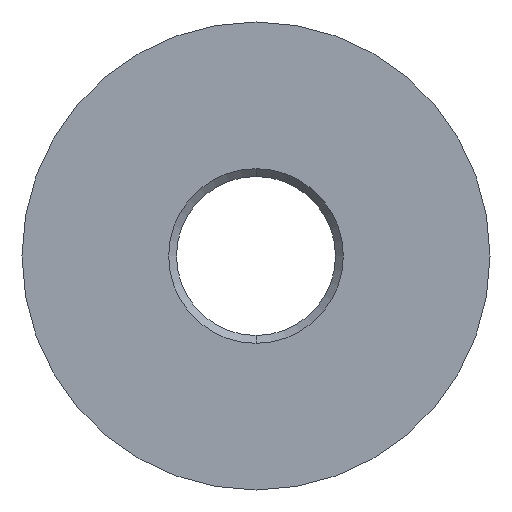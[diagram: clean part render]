
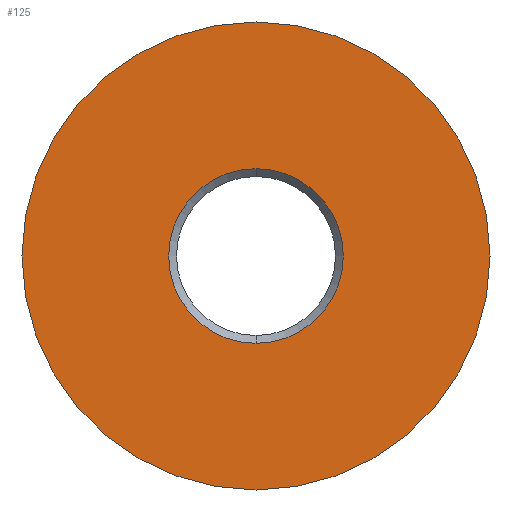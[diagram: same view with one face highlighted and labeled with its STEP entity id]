
A CAD part, front view. The second image highlights one B-rep face of the part: STEP entity #125.
In plain terms, the highlighted planar face has unit normal (0, -1, 0).
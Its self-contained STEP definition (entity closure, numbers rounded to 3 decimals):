
#7 = ORIENTED_EDGE ( 'NONE', *, *, #556, .T. ) ;
#9 = DIRECTION ( 'NONE',  ( 0., 0., -1. ) ) ;
#11 = CARTESIAN_POINT ( 'NONE',  ( 0., 0., 15.01 ) ) ;
#27 = PLANE ( 'NONE',  #571 ) ;
#32 = FACE_BOUND ( 'NONE', #524, .T. ) ;
#36 = DIRECTION ( 'NONE',  ( 0., -1., 0. ) ) ;
#38 = VERTEX_POINT ( 'NONE', #45 ) ;
#45 = CARTESIAN_POINT ( 'NONE',  ( 0., 0., -15.01 ) ) ;
#51 = EDGE_CURVE ( 'NONE', #521, #38, #547, .T. ) ;
#85 = DIRECTION ( 'NONE',  ( 0., 0., -1. ) ) ;
#125 = ADVANCED_FACE ( 'NONE', ( #32, #484 ), #27, .T. ) ;
#176 = ORIENTED_EDGE ( 'NONE', *, *, #51, .T. ) ;
#180 = CARTESIAN_POINT ( 'NONE',  ( 0., 0., 0. ) ) ;
#181 = EDGE_CURVE ( 'NONE', #548, #486, #276, .T. ) ;
#186 = DIRECTION ( 'NONE',  ( 0., 0., -1. ) ) ;
#209 = AXIS2_PLACEMENT_3D ( 'NONE', #180, #360, #85 ) ;
#223 = CARTESIAN_POINT ( 'NONE',  ( 0., 0., 0. ) ) ;
#239 = ORIENTED_EDGE ( 'NONE', *, *, #378, .T. ) ;
#242 = CARTESIAN_POINT ( 'NONE',  ( 0., 0., 0. ) ) ;
#247 = CARTESIAN_POINT ( 'NONE',  ( 0., 0., 5.6 ) ) ;
#276 = CIRCLE ( 'NONE', #408, 5.6 ) ;
#305 = AXIS2_PLACEMENT_3D ( 'NONE', #242, #554, #186 ) ;
#334 = CARTESIAN_POINT ( 'NONE',  ( 0., 0., -5.6 ) ) ;
#347 = CARTESIAN_POINT ( 'NONE',  ( 0., 0., 0. ) ) ;
#359 = AXIS2_PLACEMENT_3D ( 'NONE', #347, #36, #433 ) ;
#360 = DIRECTION ( 'NONE',  ( 0., -1., 0. ) ) ;
#378 = EDGE_CURVE ( 'NONE', #38, #521, #491, .T. ) ;
#390 = DIRECTION ( 'NONE',  ( 0., -1., 0. ) ) ;
#408 = AXIS2_PLACEMENT_3D ( 'NONE', #223, #539, #9 ) ;
#409 = ORIENTED_EDGE ( 'NONE', *, *, #181, .T. ) ;
#412 = EDGE_LOOP ( 'NONE', ( #239, #176 ) ) ;
#433 = DIRECTION ( 'NONE',  ( 0., 0., -1. ) ) ;
#458 = CIRCLE ( 'NONE', #305, 5.6 ) ;
#477 = CARTESIAN_POINT ( 'NONE',  ( 15.01, 0., 0. ) ) ;
#484 = FACE_OUTER_BOUND ( 'NONE', #412, .T. ) ;
#486 = VERTEX_POINT ( 'NONE', #247 ) ;
#491 = CIRCLE ( 'NONE', #359, 15.01 ) ;
#521 = VERTEX_POINT ( 'NONE', #11 ) ;
#524 = EDGE_LOOP ( 'NONE', ( #409, #7 ) ) ;
#539 = DIRECTION ( 'NONE',  ( 0., 1., 0. ) ) ;
#547 = CIRCLE ( 'NONE', #209, 15.01 ) ;
#548 = VERTEX_POINT ( 'NONE', #334 ) ;
#554 = DIRECTION ( 'NONE',  ( 0., 1., 0. ) ) ;
#556 = EDGE_CURVE ( 'NONE', #486, #548, #458, .T. ) ;
#559 = DIRECTION ( 'NONE',  ( 0., 0., -1. ) ) ;
#571 = AXIS2_PLACEMENT_3D ( 'NONE', #477, #390, #559 ) ;
